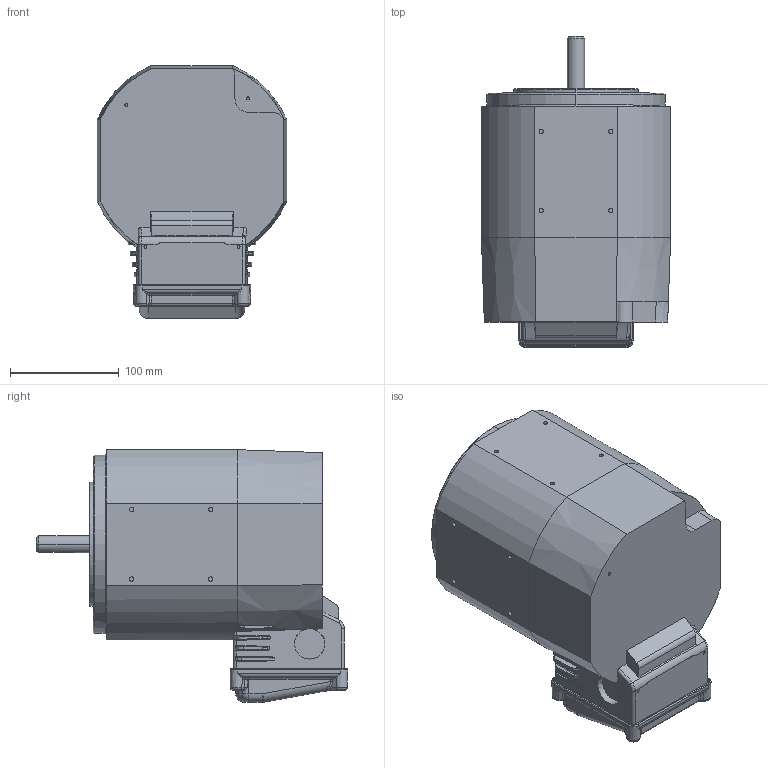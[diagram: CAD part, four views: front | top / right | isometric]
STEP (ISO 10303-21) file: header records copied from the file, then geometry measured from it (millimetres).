
FILE_DESCRIPTION (( 'STEP AP214' ), '1' );
FILE_NAME ('CPM-_ _ _ _-N056_ _-_ _ _ _SIMPLIFIED.STEP', '2023-02-22T20:18:52', ( '' ), ( '' ), 'SwSTEP 2.0', 'SolidWorks 2020', '' );
FILE_SCHEMA (( 'AUTOMOTIVE_DESIGN' ));
Length unit declared in the file: inch
Products named in the file (1): CPM-_ _ _ _-N056_ _-_ _ _ _SIMPLIFIED
Bounding box: 174.24 x 286.59 x 232.55 mm (x, y, z)
Volume: 6105958.2 mm3; surface area: 222508.2 mm2
Topology: 1 solids, 11 shells, 1191 faces, 3147 edges, 1887 vertices
Faces by surface type: bspline 469, cylinder 322, plane 246, cone 83, torus 61, sphere 10
Entity records: 59099 total; most frequent: CARTESIAN_POINT 19999, ORIENTED_EDGE 6126, DIRECTION 3929, EDGE_CURVE 3063, VERTEX_POINT 1883, AXIS2_PLACEMENT_3D 1468, EDGE_LOOP 1246, ADVANCED_FACE 1191
